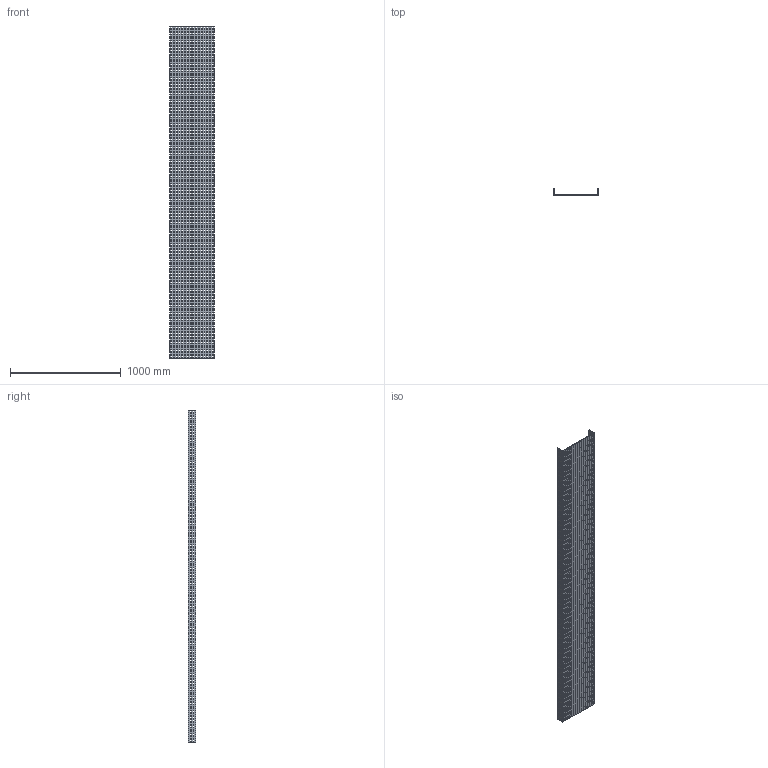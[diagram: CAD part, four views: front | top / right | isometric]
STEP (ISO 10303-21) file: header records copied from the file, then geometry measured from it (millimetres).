
FILE_DESCRIPTION (( 'STEP AP214' ), '1' );
FILE_NAME ('01B3H400.step', '2025-02-21T10:15:39', ( '' ), ( '' ), 'SwSTEP 2.0', 'SolidWorks 2023', '' );
FILE_SCHEMA (( 'AUTOMOTIVE_DESIGN' ));
Products named in the file (1): 01B3H400
Bounding box: 404 x 65.5 x 3000 mm (x, y, z)
Volume: 4662000 mm3; surface area: 3011256 mm2
Topology: 1 solids, 1 shells, 5770 faces, 17304 edges, 11536 vertices
Faces by surface type: plane 5770
Entity records: 196151 total; most frequent: CARTESIAN_POINT 34611, ORIENTED_EDGE 34608, DIRECTION 28846, LINE 17304, VECTOR 17304, EDGE_CURVE 17304, VERTEX_POINT 11536, EDGE_LOOP 8650
